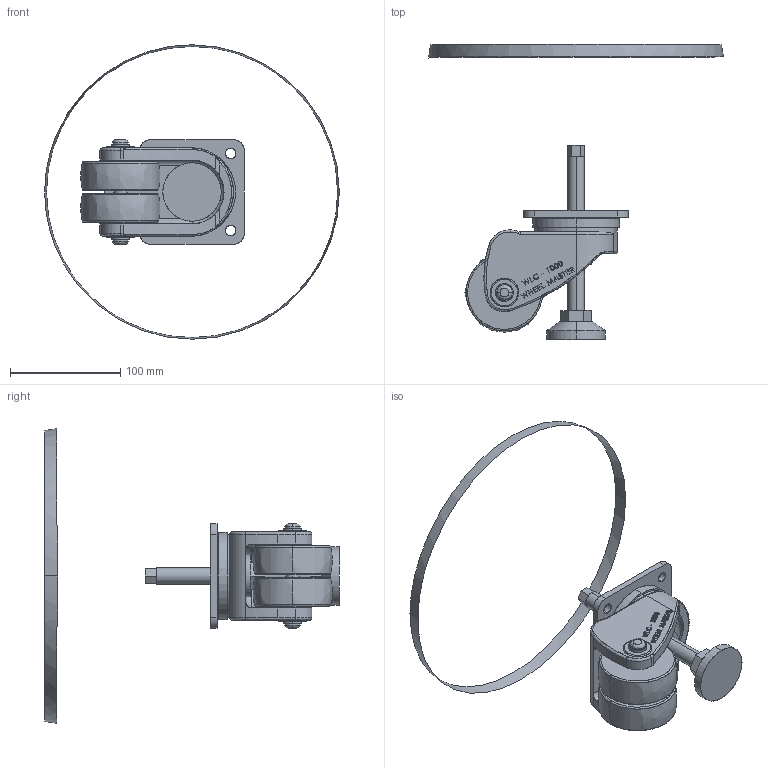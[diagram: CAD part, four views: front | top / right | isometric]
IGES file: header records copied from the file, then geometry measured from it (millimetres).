
Start section: SolidWorks IGES file using analytic representation for surfaces
Bounding box: 267.25 x 267.45 x 267.16 mm (x, y, z)
Surface area: 134377.1 mm2 (no closed solid volume)
Topology: 0 solids, 0 shells, 619 faces, 9337 edges, 9337 vertices
Faces by surface type: bspline 508, revolution 111
